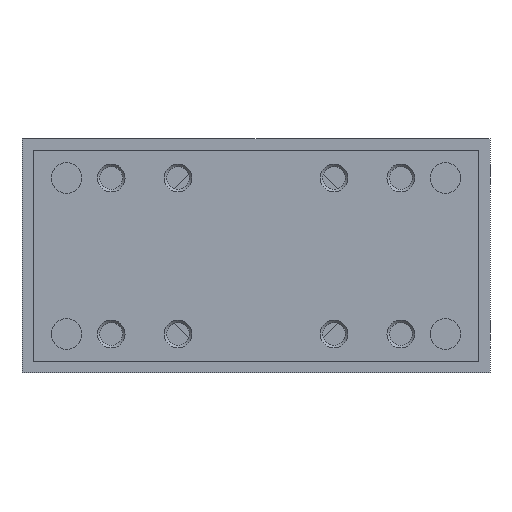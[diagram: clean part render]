
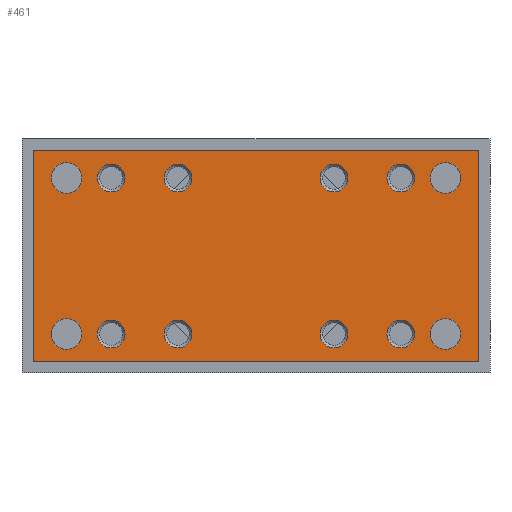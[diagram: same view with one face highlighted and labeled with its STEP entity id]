
A CAD part, left-side view. The second image highlights one B-rep face of the part: STEP entity #461.
In plain terms, the highlighted planar face has unit normal (-1, 0, 0).
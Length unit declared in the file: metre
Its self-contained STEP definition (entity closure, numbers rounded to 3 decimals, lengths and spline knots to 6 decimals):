
#461 = ADVANCED_FACE( '', ( #1092, #1093, #1094, #1095, #1096, #1097, #1098, #1099, #1100, #1101, #1102, #1103, #1104 ), #1105, .T. );
#1092 = FACE_BOUND( '', #1826, .T. );
#1093 = FACE_BOUND( '', #1827, .T. );
#1094 = FACE_BOUND( '', #1828, .T. );
#1095 = FACE_BOUND( '', #1829, .T. );
#1096 = FACE_BOUND( '', #1830, .T. );
#1097 = FACE_BOUND( '', #1831, .T. );
#1098 = FACE_BOUND( '', #1832, .T. );
#1099 = FACE_BOUND( '', #1833, .T. );
#1100 = FACE_BOUND( '', #1834, .T. );
#1101 = FACE_BOUND( '', #1835, .T. );
#1102 = FACE_BOUND( '', #1836, .T. );
#1103 = FACE_BOUND( '', #1837, .T. );
#1104 = FACE_OUTER_BOUND( '', #1838, .T. );
#1105 = PLANE( '', #1839 );
#1826 = EDGE_LOOP( '', ( #2920 ) );
#1827 = EDGE_LOOP( '', ( #2921 ) );
#1828 = EDGE_LOOP( '', ( #2922 ) );
#1829 = EDGE_LOOP( '', ( #2923 ) );
#1830 = EDGE_LOOP( '', ( #2924 ) );
#1831 = EDGE_LOOP( '', ( #2925 ) );
#1832 = EDGE_LOOP( '', ( #2926 ) );
#1833 = EDGE_LOOP( '', ( #2927 ) );
#1834 = EDGE_LOOP( '', ( #2928 ) );
#1835 = EDGE_LOOP( '', ( #2929 ) );
#1836 = EDGE_LOOP( '', ( #2930 ) );
#1837 = EDGE_LOOP( '', ( #2931 ) );
#1838 = EDGE_LOOP( '', ( #2932, #2933, #2934, #2935 ) );
#1839 = AXIS2_PLACEMENT_3D( '', #2936, #2937, #2938 );
#2920 = ORIENTED_EDGE( '', *, *, #3649, .F. );
#2921 = ORIENTED_EDGE( '', *, *, #3366, .F. );
#2922 = ORIENTED_EDGE( '', *, *, #3602, .F. );
#2923 = ORIENTED_EDGE( '', *, *, #3500, .F. );
#2924 = ORIENTED_EDGE( '', *, *, #3636, .T. );
#2925 = ORIENTED_EDGE( '', *, *, #3443, .F. );
#2926 = ORIENTED_EDGE( '', *, *, #3535, .F. );
#2927 = ORIENTED_EDGE( '', *, *, #3650, .T. );
#2928 = ORIENTED_EDGE( '', *, *, #3410, .T. );
#2929 = ORIENTED_EDGE( '', *, *, #3361, .F. );
#2930 = ORIENTED_EDGE( '', *, *, #3370, .F. );
#2931 = ORIENTED_EDGE( '', *, *, #3580, .T. );
#2932 = ORIENTED_EDGE( '', *, *, #3651, .T. );
#2933 = ORIENTED_EDGE( '', *, *, #3343, .T. );
#2934 = ORIENTED_EDGE( '', *, *, #3505, .T. );
#2935 = ORIENTED_EDGE( '', *, *, #3612, .T. );
#2936 = CARTESIAN_POINT( '', ( -0.062, -0.04, -0.002 ) );
#2937 = DIRECTION( '', ( -1., 0., 0. ) );
#2938 = DIRECTION( '', ( 0., -1., 0. ) );
#3343 = EDGE_CURVE( '', #3838, #3836, #3839, .T. );
#3361 = EDGE_CURVE( '', #3864, #3864, #3865, .T. );
#3366 = EDGE_CURVE( '', #3872, #3872, #3873, .T. );
#3370 = EDGE_CURVE( '', #3879, #3879, #3880, .T. );
#3410 = EDGE_CURVE( '', #3946, #3946, #3947, .T. );
#3443 = EDGE_CURVE( '', #3995, #3995, #3996, .T. );
#3500 = EDGE_CURVE( '', #4084, #4084, #4085, .T. );
#3505 = EDGE_CURVE( '', #3836, #4091, #4093, .T. );
#3535 = EDGE_CURVE( '', #4136, #4136, #4137, .T. );
#3580 = EDGE_CURVE( '', #4198, #4198, #4199, .T. );
#3602 = EDGE_CURVE( '', #4230, #4230, #4231, .T. );
#3612 = EDGE_CURVE( '', #4091, #4242, #4244, .T. );
#3636 = EDGE_CURVE( '', #4279, #4279, #4280, .T. );
#3649 = EDGE_CURVE( '', #4294, #4294, #4295, .T. );
#3650 = EDGE_CURVE( '', #4296, #4296, #4297, .T. );
#3651 = EDGE_CURVE( '', #4242, #3838, #4298, .T. );
#3836 = VERTEX_POINT( '', #4634 );
#3838 = VERTEX_POINT( '', #4637 );
#3839 = LINE( '', #4638, #4639 );
#3864 = VERTEX_POINT( '', #4665 );
#3865 = CIRCLE( '', #4666, 0.0025 );
#3872 = VERTEX_POINT( '', #4673 );
#3873 = CIRCLE( '', #4674, 0.00275 );
#3879 = VERTEX_POINT( '', #4680 );
#3880 = CIRCLE( '', #4681, 0.0025 );
#3946 = VERTEX_POINT( '', #4784 );
#3947 = CIRCLE( '', #4785, 0.0025 );
#3995 = VERTEX_POINT( '', #4974 );
#3996 = CIRCLE( '', #4975, 0.0025 );
#4084 = VERTEX_POINT( '', #5289 );
#4085 = CIRCLE( '', #5290, 0.00275 );
#4091 = VERTEX_POINT( '', #5297 );
#4093 = LINE( '', #5300, #5301 );
#4136 = VERTEX_POINT( '', #5378 );
#4137 = CIRCLE( '', #5379, 0.0025 );
#4198 = VERTEX_POINT( '', #5446 );
#4199 = CIRCLE( '', #5447, 0.0025 );
#4230 = VERTEX_POINT( '', #5480 );
#4231 = CIRCLE( '', #5481, 0.00275 );
#4242 = VERTEX_POINT( '', #5522 );
#4244 = LINE( '', #5525, #5526 );
#4279 = VERTEX_POINT( '', #5810 );
#4280 = CIRCLE( '', #5811, 0.0025 );
#4294 = VERTEX_POINT( '', #5825 );
#4295 = CIRCLE( '', #5826, 0.00275 );
#4296 = VERTEX_POINT( '', #5827 );
#4297 = CIRCLE( '', #5828, 0.0025 );
#4298 = LINE( '', #5829, #5830 );
#4634 = CARTESIAN_POINT( '', ( -0.062, 0.04, -0.002 ) );
#4637 = CARTESIAN_POINT( '', ( -0.062, -0.04, -0.002 ) );
#4638 = CARTESIAN_POINT( '', ( -0.062, -0.04, -0.002 ) );
#4639 = VECTOR( '', #6037, 1. );
#4665 = CARTESIAN_POINT( '', ( -0.062, 0.014, -0.0375 ) );
#4666 = AXIS2_PLACEMENT_3D( '', #6069, #6070, #6071 );
#4673 = CARTESIAN_POINT( '', ( -0.062, 0.03125, -0.035 ) );
#4674 = AXIS2_PLACEMENT_3D( '', #6078, #6079, #6080 );
#4680 = CARTESIAN_POINT( '', ( -0.062, -0.014, -0.0045 ) );
#4681 = AXIS2_PLACEMENT_3D( '', #6087, #6088, #6089 );
#4784 = CARTESIAN_POINT( '', ( -0.062, -0.014, -0.0375 ) );
#4785 = AXIS2_PLACEMENT_3D( '', #6158, #6159, #6160 );
#4974 = CARTESIAN_POINT( '', ( -0.062, 0.026, -0.0375 ) );
#4975 = AXIS2_PLACEMENT_3D( '', #6218, #6219, #6220 );
#5289 = CARTESIAN_POINT( '', ( -0.062, 0.03125, -0.007 ) );
#5290 = AXIS2_PLACEMENT_3D( '', #6298, #6299, #6300 );
#5297 = CARTESIAN_POINT( '', ( -0.062, 0.04, -0.04 ) );
#5300 = CARTESIAN_POINT( '', ( -0.062, 0.04, -0.002 ) );
#5301 = VECTOR( '', #6306, 1. );
#5378 = CARTESIAN_POINT( '', ( -0.062, -0.026, -0.0045 ) );
#5379 = AXIS2_PLACEMENT_3D( '', #6345, #6346, #6347 );
#5446 = CARTESIAN_POINT( '', ( -0.062, 0.014, -0.0045 ) );
#5447 = AXIS2_PLACEMENT_3D( '', #6405, #6406, #6407 );
#5480 = CARTESIAN_POINT( '', ( -0.062, -0.03675, -0.007 ) );
#5481 = AXIS2_PLACEMENT_3D( '', #6437, #6438, #6439 );
#5522 = CARTESIAN_POINT( '', ( -0.062, -0.04, -0.04 ) );
#5525 = CARTESIAN_POINT( '', ( -0.062, 0.04, -0.04 ) );
#5526 = VECTOR( '', #6445, 1. );
#5810 = CARTESIAN_POINT( '', ( -0.062, -0.026, -0.0375 ) );
#5811 = AXIS2_PLACEMENT_3D( '', #6464, #6465, #6466 );
#5825 = CARTESIAN_POINT( '', ( -0.062, -0.03675, -0.035 ) );
#5826 = AXIS2_PLACEMENT_3D( '', #6473, #6474, #6475 );
#5827 = CARTESIAN_POINT( '', ( -0.062, 0.026, -0.0045 ) );
#5828 = AXIS2_PLACEMENT_3D( '', #6476, #6477, #6478 );
#5829 = CARTESIAN_POINT( '', ( -0.062, -0.04, -0.04 ) );
#5830 = VECTOR( '', #6479, 1. );
#6037 = DIRECTION( '', ( 0., 1., 0. ) );
#6069 = CARTESIAN_POINT( '', ( -0.062, 0.014, -0.035 ) );
#6070 = DIRECTION( '', ( -1., 0., 0. ) );
#6071 = DIRECTION( '', ( 0., 0., -1. ) );
#6078 = CARTESIAN_POINT( '', ( -0.062, 0.034, -0.035 ) );
#6079 = DIRECTION( '', ( -1., 0., 0. ) );
#6080 = DIRECTION( '', ( 0., -1., 0. ) );
#6087 = CARTESIAN_POINT( '', ( -0.062, -0.014, -0.007 ) );
#6088 = DIRECTION( '', ( -1., 0., 0. ) );
#6089 = DIRECTION( '', ( 0., 0., 1. ) );
#6158 = CARTESIAN_POINT( '', ( -0.062, -0.014, -0.035 ) );
#6159 = DIRECTION( '', ( 1., 0., 0. ) );
#6160 = DIRECTION( '', ( 0., 0., -1. ) );
#6218 = CARTESIAN_POINT( '', ( -0.062, 0.026, -0.035 ) );
#6219 = DIRECTION( '', ( -1., 0., 0. ) );
#6220 = DIRECTION( '', ( 0., 0., -1. ) );
#6298 = CARTESIAN_POINT( '', ( -0.062, 0.034, -0.007 ) );
#6299 = DIRECTION( '', ( -1., 0., 0. ) );
#6300 = DIRECTION( '', ( 0., -1., 0. ) );
#6306 = DIRECTION( '', ( 0., 0., -1. ) );
#6345 = CARTESIAN_POINT( '', ( -0.062, -0.026, -0.007 ) );
#6346 = DIRECTION( '', ( -1., 0., 0. ) );
#6347 = DIRECTION( '', ( 0., 0., 1. ) );
#6405 = CARTESIAN_POINT( '', ( -0.062, 0.014, -0.007 ) );
#6406 = DIRECTION( '', ( 1., 0., 0. ) );
#6407 = DIRECTION( '', ( 0., 0., 1. ) );
#6437 = CARTESIAN_POINT( '', ( -0.062, -0.034, -0.007 ) );
#6438 = DIRECTION( '', ( -1., 0., 0. ) );
#6439 = DIRECTION( '', ( 0., -1., 0. ) );
#6445 = DIRECTION( '', ( 0., -1., 0. ) );
#6464 = CARTESIAN_POINT( '', ( -0.062, -0.026, -0.035 ) );
#6465 = DIRECTION( '', ( 1., 0., 0. ) );
#6466 = DIRECTION( '', ( 0., 0., -1. ) );
#6473 = CARTESIAN_POINT( '', ( -0.062, -0.034, -0.035 ) );
#6474 = DIRECTION( '', ( -1., 0., 0. ) );
#6475 = DIRECTION( '', ( 0., -1., 0. ) );
#6476 = CARTESIAN_POINT( '', ( -0.062, 0.026, -0.007 ) );
#6477 = DIRECTION( '', ( 1., 0., 0. ) );
#6478 = DIRECTION( '', ( 0., 0., 1. ) );
#6479 = DIRECTION( '', ( 0., 0., 1. ) );
